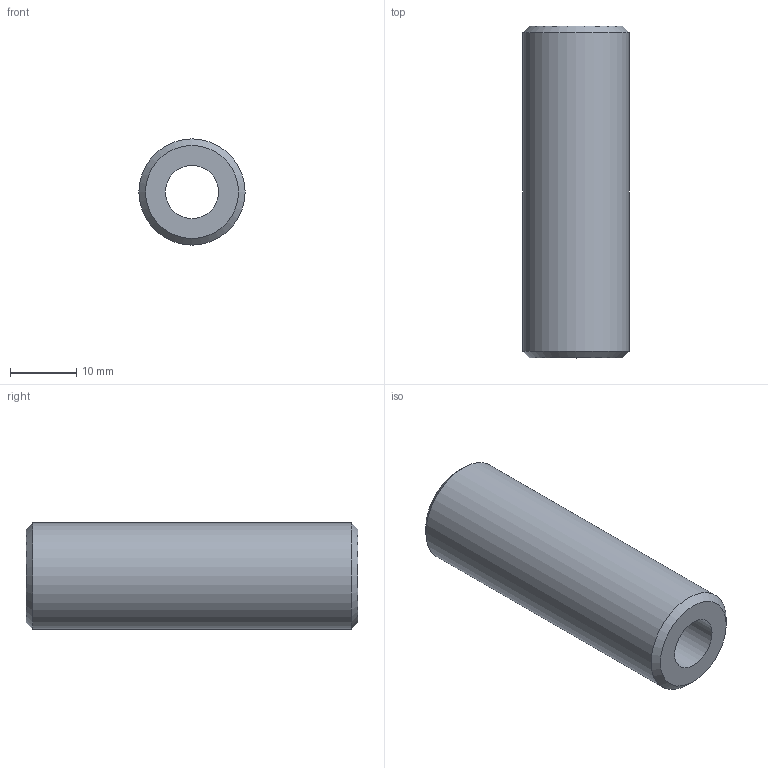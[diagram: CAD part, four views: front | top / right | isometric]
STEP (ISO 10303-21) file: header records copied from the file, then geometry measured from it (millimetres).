
FILE_DESCRIPTION( ( 'Unknown' ), '1' );
FILE_NAME( 'F:/navkite transat/construction/2016/3D ET ASSEMBLAGES/AMI/AMI 25.stp', 'Unknown', ( 'GMA' ), ( 'Unknown' ), 'XStep 1.0', 'Unknown', ' ' );
FILE_SCHEMA( ( 'automotive_design' ) );
Length unit declared in the file: millimetre
Products named in the file (1): 1
Bounding box: 16 x 50 x 16 mm (x, y, z)
Volume: 7491.7 mm3; surface area: 4010 mm2
Topology: 1 solids, 1 shells, 6 faces, 11 edges, 7 vertices
Faces by surface type: cylinder 2, cone 2, plane 2
Full cylindrical faces by diameter (mm): 8 x1, 16 x1
Entity records: 192 total; most frequent: DIRECTION 26, CARTESIAN_POINT 19, AXIS2_PLACEMENT_3D 13, EDGE_LOOP 12, ORIENTED_EDGE 12, FACE_OUTER_BOUND 8, STYLED_ITEM 6, PRESENTATION_STYLE_ASSIGNMENT 6
